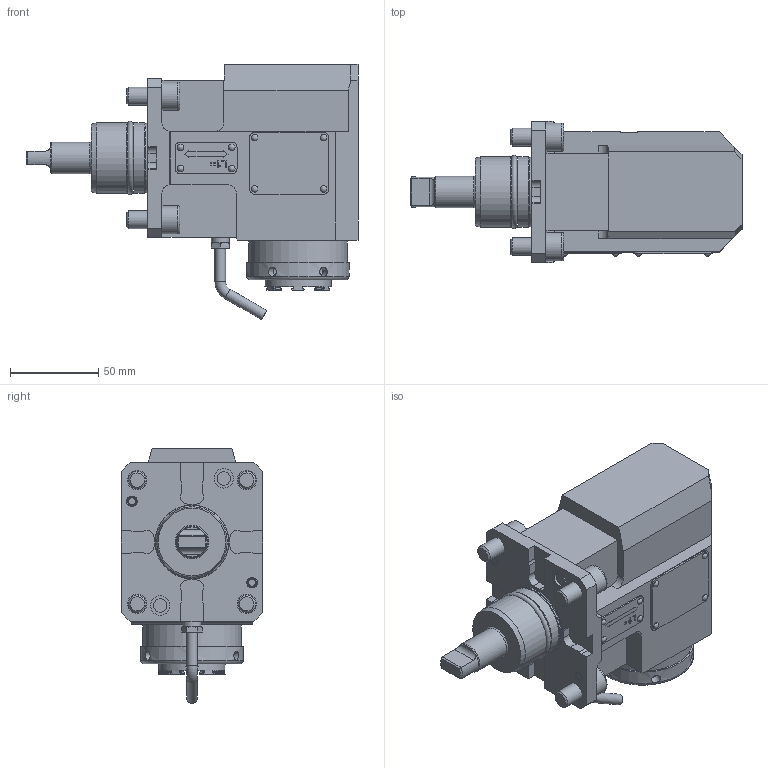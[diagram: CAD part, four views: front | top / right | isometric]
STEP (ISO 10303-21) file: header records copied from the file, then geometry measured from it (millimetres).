
FILE_DESCRIPTION(/* description */ (''),/* implementation_level */ '2;1');
FILE_NAME(/* name */ '196550',/* time_stamp */ '2023-04-20T13:50:23+02:00',/* author */ (''),/* organization */ (''),/* preprocessor_version */ 'ST-DEVELOPER v16.5',/* originating_system */ 'HiCAD 2017 2201.0 Build 268',/* authorisation */ '');
FILE_SCHEMA (('AUTOMOTIVE_DESIGN { 1 0 10303 214 1 1 1 1 }'));
Length unit declared in the file: millimetre
Products named in the file (14): Root; Teil; QRSTUVWXYZ[\]^_`ABCDEFGHIJKLMNOPQRSTUVWXYZ{|}~\X2\20AC0081201A0191
201E20262020202102C62030016020390152008D017D008F009020182019201C201D2022
2013201402DC21220160203A0152009D017D017800A000A100A200A300A400A500A600A7
00A800A900AA00AB00AC00AD00AE00AF00B000B100B200B300B4F5C2FFFD7FFE\X0\; GEWINDE; DIN 13-M6; DIN 76-M6
Assembly tree (13 placements, depth 3):
  Root
    Teil
      QRSTUVWXYZ[\]^_`ABCDEFGHIJKLMNOPQRSTUVWXYZ{|}~\X2\20AC0081201A0191
201E20262020202102C62030016020390152008D017D008F009020182019201C201D2022
2013201402DC21220160203A0152009D017D017800A000A100A200A300A400A500A600A7
00A800A900AA00AB00AC00AD00AE00AF00B000B100B200B300B4F5C2FFFD7FFE\X0\
      GEWINDE
      GEWINDE
      GEWINDE
      GEWINDE
      GEWINDE
      GEWINDE
      GEWINDE
      GEWINDE
      DIN 13-M6
      DIN 13-M6
      DIN 76-M6
Bounding box: 188 x 80 x 144.53 mm (x, y, z)
Volume: 751684.7 mm3; surface area: 93686.9 mm2
Topology: 17 solids, 25 shells, 585 faces, 1430 edges, 932 vertices
Faces by surface type: plane 326, cylinder 181, cone 44, torus 24, sphere 8, bspline 2
Full cylindrical faces by diameter (mm): 2.2 x8, 4 x2, 4.773 x6, 5 x4, 5.1 x6, 6 x11, 7.65 x2, 8.16 x8, 8.773 x2, 10 x9, 11 x4, 11.01 x2, 16 x4, 17.8 x1, 23.5 x1, 24 x1, 27 x2, 29.4 x1, 35.4 x1, 37.5 x1, 37.978 x2, 38.16 x1, 39.5 x1, 39.9 x2, 40 x1, 40.501 x1, 45 x1, 55.999 x1, 57.999 x1
Entity records: 35277 total; most frequent: CARTESIAN_POINT 8126, DIRECTION 2729, PRESENTATION_STYLE_ASSIGNMENT 2719, OVER_RIDING_STYLED_ITEM 2706, COLOUR_RGB 2476, DRAUGHTING_PRE_DEFINED_CURVE_FONT 2468, CURVE_STYLE 2468, ORIENTED_EDGE 2468
